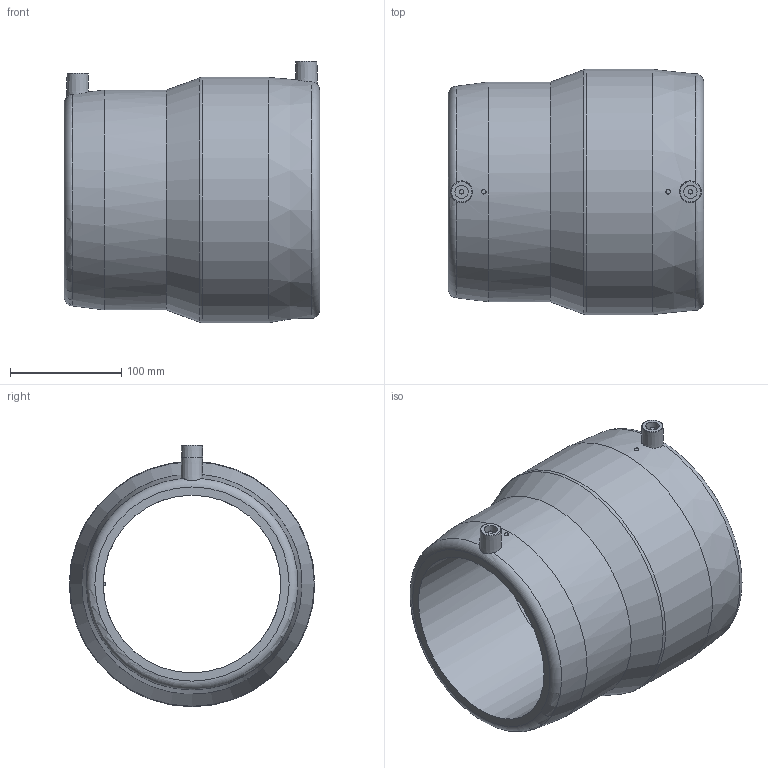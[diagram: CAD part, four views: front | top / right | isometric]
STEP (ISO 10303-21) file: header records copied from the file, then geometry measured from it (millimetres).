
FILE_DESCRIPTION(/* description */ ('Unknown'),/* implementation_level */ '2;1');
FILE_NAME(/* name */ 'REP180160C',/* time_stamp */ '2021-05-25T16:34:20+02:00',/* author */ ('Unknown'),/* organization */ ('Unknown'),/* preprocessor_version */ 'ST-DEVELOPER v16.7',/* originating_system */ 'Solid Edge',/* authorisation */ 'Unknown');
FILE_SCHEMA (('AUTOMOTIVE_DESIGN {1 0 10303 214 3 1 1}'));
Length unit declared in the file: millimetre
Products named in the file (1): REP180160C
Bounding box: 230 x 221 x 235.5 mm (x, y, z)
Volume: 2686035.4 mm3; surface area: 293902.4 mm2
Topology: 1 solids, 1 shells, 36 faces, 79 edges, 50 vertices
Faces by surface type: plane 15, cylinder 10, cone 6, torus 5
Full cylindrical faces by diameter (mm): 4 x4, 12 x2, 160 x1, 180 x1, 198 x1, 221 x1
Entity records: 852 total; most frequent: CARTESIAN_POINT 180, DIRECTION 142, ORIENTED_EDGE 90, AXIS2_PLACEMENT_3D 66, EDGE_LOOP 65, FACE_BOUND 65, EDGE_CURVE 45, VERTEX_POINT 38
